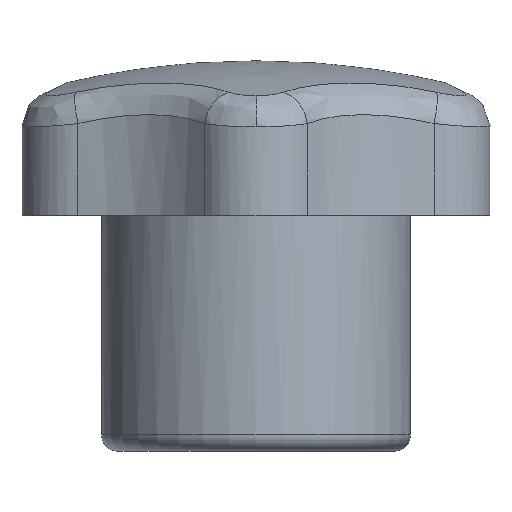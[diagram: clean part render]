
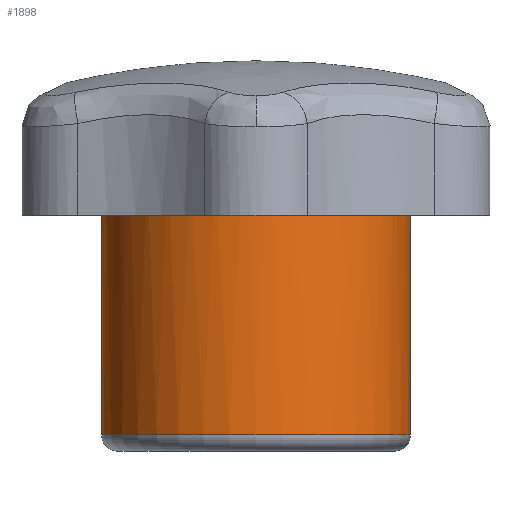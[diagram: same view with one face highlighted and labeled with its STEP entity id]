
A CAD part, left-side view. The second image highlights one B-rep face of the part: STEP entity #1898.
In plain terms, the highlighted cylindrical face has radius 9.5 mm (diameter 19 mm), a full revolution.
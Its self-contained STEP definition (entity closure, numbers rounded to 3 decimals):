
#42=CARTESIAN_POINT('',(-9.5,0.,1.));
#43=VERTEX_POINT('',#42);
#53=CARTESIAN_POINT('',(0.,0.,1.));
#54=DIRECTION('',(-1.,0.,0.));
#55=DIRECTION('',(0.,0.,1.));
#56=AXIS2_PLACEMENT_3D('',#53,#55,#54);
#57=CIRCLE('',#56,9.5);
#58=EDGE_CURVE('',#43,#43,#57,.T.);
#1670=CARTESIAN_POINT('',(0.,0.,17.5));
#1671=DIRECTION('',(-1.,0.,0.));
#1672=DIRECTION('',(0.,0.,-1.));
#1673=AXIS2_PLACEMENT_3D('',#1670,#1672,#1671);
#1674=CYLINDRICAL_SURFACE('',#1673,9.5);
#1675=ORIENTED_EDGE('',*,*,#58,.T.);
#1676=CARTESIAN_POINT('',(-9.5,0.,16.5));
#1677=VERTEX_POINT('',#1676);
#1678=CARTESIAN_POINT('',(-9.5,0.,1.));
#1679=DIRECTION('',(0.,0.,1.));
#1680=VECTOR('',#1679,15.5);
#1681=LINE('',#1678,#1680);
#1682=EDGE_CURVE('',#43,#1677,#1681,.T.);
#1683=ORIENTED_EDGE('E55',*,*,#1682,.T.);
#1684=CARTESIAN_POINT('',(-9.457,0.9,16.5));
#1685=VERTEX_POINT('',#1684);
#1686=CARTESIAN_POINT('',(0.,0.,16.5));
#1687=DIRECTION('',(-0.996,0.095,0.));
#1688=DIRECTION('',(0.,0.,1.));
#1689=AXIS2_PLACEMENT_3D('',#1686,#1688,#1687);
#1690=CIRCLE('',#1689,9.5);
#1691=EDGE_CURVE('',#1685,#1677,#1690,.T.);
#1692=ORIENTED_EDGE('E233',*,*,#1691,.F.);
#1693=CARTESIAN_POINT('',(-9.457,0.9,17.5));
#1694=VERTEX_POINT('',#1693);
#1695=CARTESIAN_POINT('',(-9.457,0.9,17.5));
#1696=DIRECTION('',(0.,0.,-1.));
#1697=VECTOR('',#1696,1.);
#1698=LINE('',#1695,#1697);
#1699=EDGE_CURVE('',#1694,#1685,#1698,.T.);
#1700=ORIENTED_EDGE('E234',*,*,#1699,.F.);
#1701=CARTESIAN_POINT('',(-5.508,7.74,17.5));
#1702=VERTEX_POINT('',#1701);
#1703=CARTESIAN_POINT('',(0.,0.,17.5));
#1704=DIRECTION('',(-0.58,0.815,0.));
#1705=DIRECTION('',(0.,0.,1.));
#1706=AXIS2_PLACEMENT_3D('',#1703,#1705,#1704);
#1707=CIRCLE('',#1706,9.5);
#1708=EDGE_CURVE('',#1702,#1694,#1707,.T.);
#1709=ORIENTED_EDGE('E132',*,*,#1708,.F.);
#1710=CARTESIAN_POINT('',(-5.508,7.74,16.5));
#1711=VERTEX_POINT('',#1710);
#1712=CARTESIAN_POINT('',(-5.508,7.74,16.5));
#1713=DIRECTION('',(0.,0.,1.));
#1714=VECTOR('',#1713,1.);
#1715=LINE('',#1712,#1714);
#1716=EDGE_CURVE('',#1711,#1702,#1715,.T.);
#1717=ORIENTED_EDGE('E216',*,*,#1716,.F.);
#1718=CARTESIAN_POINT('',(-3.949,8.64,16.5));
#1719=VERTEX_POINT('',#1718);
#1720=CARTESIAN_POINT('',(0.,0.,16.5));
#1721=DIRECTION('',(-0.416,0.909,0.));
#1722=DIRECTION('',(0.,0.,1.));
#1723=AXIS2_PLACEMENT_3D('',#1720,#1722,#1721);
#1724=CIRCLE('',#1723,9.5);
#1725=EDGE_CURVE('',#1719,#1711,#1724,.T.);
#1726=ORIENTED_EDGE('E215',*,*,#1725,.F.);
#1727=CARTESIAN_POINT('',(-3.949,8.64,17.5));
#1728=VERTEX_POINT('',#1727);
#1729=CARTESIAN_POINT('',(-3.949,8.64,17.5));
#1730=DIRECTION('',(0.,0.,-1.));
#1731=VECTOR('',#1730,1.);
#1732=LINE('',#1729,#1731);
#1733=EDGE_CURVE('',#1728,#1719,#1732,.T.);
#1734=ORIENTED_EDGE('E214',*,*,#1733,.F.);
#1735=CARTESIAN_POINT('',(3.949,8.64,17.5));
#1736=VERTEX_POINT('',#1735);
#1737=CARTESIAN_POINT('',(0.,0.,17.5));
#1738=DIRECTION('',(0.416,0.909,0.));
#1739=DIRECTION('',(0.,0.,1.));
#1740=AXIS2_PLACEMENT_3D('',#1737,#1739,#1738);
#1741=CIRCLE('',#1740,9.5);
#1742=EDGE_CURVE('',#1736,#1728,#1741,.T.);
#1743=ORIENTED_EDGE('E166',*,*,#1742,.F.);
#1744=CARTESIAN_POINT('',(3.949,8.64,16.5));
#1745=VERTEX_POINT('',#1744);
#1746=CARTESIAN_POINT('',(3.949,8.64,16.5));
#1747=DIRECTION('',(0.,0.,1.));
#1748=VECTOR('',#1747,1.);
#1749=LINE('',#1746,#1748);
#1750=EDGE_CURVE('',#1745,#1736,#1749,.T.);
#1751=ORIENTED_EDGE('E186',*,*,#1750,.F.);
#1752=CARTESIAN_POINT('',(5.508,7.74,16.5));
#1753=VERTEX_POINT('',#1752);
#1754=CARTESIAN_POINT('',(0.,0.,16.5));
#1755=DIRECTION('',(0.58,0.815,0.));
#1756=DIRECTION('',(0.,0.,1.));
#1757=AXIS2_PLACEMENT_3D('',#1754,#1756,#1755);
#1758=CIRCLE('',#1757,9.5);
#1759=EDGE_CURVE('',#1753,#1745,#1758,.T.);
#1760=ORIENTED_EDGE('E180',*,*,#1759,.F.);
#1761=CARTESIAN_POINT('',(5.508,7.74,17.5));
#1762=VERTEX_POINT('',#1761);
#1763=CARTESIAN_POINT('',(5.508,7.74,17.5));
#1764=DIRECTION('',(0.,0.,-1.));
#1765=VECTOR('',#1764,1.);
#1766=LINE('',#1763,#1765);
#1767=EDGE_CURVE('',#1762,#1753,#1766,.T.);
#1768=ORIENTED_EDGE('E181',*,*,#1767,.F.);
#1769=CARTESIAN_POINT('',(9.457,0.9,17.5));
#1770=VERTEX_POINT('',#1769);
#1771=CARTESIAN_POINT('',(0.,0.,17.5));
#1772=DIRECTION('',(0.996,0.095,0.));
#1773=DIRECTION('',(0.,0.,1.));
#1774=AXIS2_PLACEMENT_3D('',#1771,#1773,#1772);
#1775=CIRCLE('',#1774,9.5);
#1776=EDGE_CURVE('',#1770,#1762,#1775,.T.);
#1777=ORIENTED_EDGE('E169',*,*,#1776,.F.);
#1778=CARTESIAN_POINT('',(9.457,0.9,16.5));
#1779=VERTEX_POINT('',#1778);
#1780=CARTESIAN_POINT('',(9.457,0.9,16.5));
#1781=DIRECTION('',(0.,0.,1.));
#1782=VECTOR('',#1781,1.);
#1783=LINE('',#1780,#1782);
#1784=EDGE_CURVE('',#1779,#1770,#1783,.T.);
#1785=ORIENTED_EDGE('E224',*,*,#1784,.F.);
#1786=CARTESIAN_POINT('',(9.457,-0.9,16.5));
#1787=VERTEX_POINT('',#1786);
#1788=CARTESIAN_POINT('',(0.,0.,16.5));
#1789=DIRECTION('',(0.996,-0.095,0.));
#1790=DIRECTION('',(0.,0.,1.));
#1791=AXIS2_PLACEMENT_3D('',#1788,#1790,#1789);
#1792=CIRCLE('',#1791,9.5);
#1793=EDGE_CURVE('',#1787,#1779,#1792,.T.);
#1794=ORIENTED_EDGE('E220',*,*,#1793,.F.);
#1795=CARTESIAN_POINT('',(9.457,-0.9,17.5));
#1796=VERTEX_POINT('',#1795);
#1797=CARTESIAN_POINT('',(9.457,-0.9,17.5));
#1798=DIRECTION('',(0.,0.,-1.));
#1799=VECTOR('',#1798,1.);
#1800=LINE('',#1797,#1799);
#1801=EDGE_CURVE('',#1796,#1787,#1800,.T.);
#1802=ORIENTED_EDGE('E223',*,*,#1801,.F.);
#1803=CARTESIAN_POINT('',(5.508,-7.74,17.5));
#1804=VERTEX_POINT('',#1803);
#1805=CARTESIAN_POINT('',(0.,0.,17.5));
#1806=DIRECTION('',(0.58,-0.815,0.));
#1807=DIRECTION('',(0.,-0.,1.));
#1808=AXIS2_PLACEMENT_3D('',#1805,#1807,#1806);
#1809=CIRCLE('',#1808,9.5);
#1810=EDGE_CURVE('',#1804,#1796,#1809,.T.);
#1811=ORIENTED_EDGE('E167',*,*,#1810,.F.);
#1812=CARTESIAN_POINT('',(5.508,-7.74,16.5));
#1813=VERTEX_POINT('',#1812);
#1814=CARTESIAN_POINT('',(5.508,-7.74,16.5));
#1815=DIRECTION('',(0.,0.,1.));
#1816=VECTOR('',#1815,1.);
#1817=LINE('',#1814,#1816);
#1818=EDGE_CURVE('',#1813,#1804,#1817,.T.);
#1819=ORIENTED_EDGE('E192',*,*,#1818,.F.);
#1820=CARTESIAN_POINT('',(3.949,-8.64,16.5));
#1821=VERTEX_POINT('',#1820);
#1822=CARTESIAN_POINT('',(0.,0.,16.5));
#1823=DIRECTION('',(0.416,-0.909,0.));
#1824=DIRECTION('',(0.,0.,1.));
#1825=AXIS2_PLACEMENT_3D('',#1822,#1824,#1823);
#1826=CIRCLE('',#1825,9.5);
#1827=EDGE_CURVE('',#1821,#1813,#1826,.T.);
#1828=ORIENTED_EDGE('E196',*,*,#1827,.F.);
#1829=CARTESIAN_POINT('',(3.949,-8.64,17.5));
#1830=VERTEX_POINT('',#1829);
#1831=CARTESIAN_POINT('',(3.949,-8.64,17.5));
#1832=DIRECTION('',(0.,0.,-1.));
#1833=VECTOR('',#1832,1.);
#1834=LINE('',#1831,#1833);
#1835=EDGE_CURVE('',#1830,#1821,#1834,.T.);
#1836=ORIENTED_EDGE('E195',*,*,#1835,.F.);
#1837=CARTESIAN_POINT('',(-3.949,-8.64,17.5));
#1838=VERTEX_POINT('',#1837);
#1839=CARTESIAN_POINT('',(0.,0.,17.5));
#1840=DIRECTION('',(-0.416,-0.909,0.));
#1841=DIRECTION('',(-0.,0.,1.));
#1842=AXIS2_PLACEMENT_3D('',#1839,#1841,#1840);
#1843=CIRCLE('',#1842,9.5);
#1844=EDGE_CURVE('',#1838,#1830,#1843,.T.);
#1845=ORIENTED_EDGE('E168',*,*,#1844,.F.);
#1846=CARTESIAN_POINT('',(-3.949,-8.64,16.5));
#1847=VERTEX_POINT('',#1846);
#1848=CARTESIAN_POINT('',(-3.949,-8.64,16.5));
#1849=DIRECTION('',(0.,0.,1.));
#1850=VECTOR('',#1849,1.);
#1851=LINE('',#1848,#1850);
#1852=EDGE_CURVE('',#1847,#1838,#1851,.T.);
#1853=ORIENTED_EDGE('E200',*,*,#1852,.F.);
#1854=CARTESIAN_POINT('',(-5.508,-7.74,16.5));
#1855=VERTEX_POINT('',#1854);
#1856=CARTESIAN_POINT('',(0.,0.,16.5));
#1857=DIRECTION('',(-0.58,-0.815,0.));
#1858=DIRECTION('',(0.,0.,1.));
#1859=AXIS2_PLACEMENT_3D('',#1856,#1858,#1857);
#1860=CIRCLE('',#1859,9.5);
#1861=EDGE_CURVE('',#1855,#1847,#1860,.T.);
#1862=ORIENTED_EDGE('E203',*,*,#1861,.F.);
#1863=CARTESIAN_POINT('',(-5.508,-7.74,17.5));
#1864=VERTEX_POINT('',#1863);
#1865=CARTESIAN_POINT('',(-5.508,-7.74,17.5));
#1866=DIRECTION('',(0.,0.,-1.));
#1867=VECTOR('',#1866,1.);
#1868=LINE('',#1865,#1867);
#1869=EDGE_CURVE('',#1864,#1855,#1868,.T.);
#1870=ORIENTED_EDGE('E206',*,*,#1869,.F.);
#1871=CARTESIAN_POINT('',(-9.457,-0.9,17.5));
#1872=VERTEX_POINT('',#1871);
#1873=CARTESIAN_POINT('',(0.,0.,17.5));
#1874=DIRECTION('',(-0.996,-0.095,0.));
#1875=DIRECTION('',(-0.,0.,1.));
#1876=AXIS2_PLACEMENT_3D('',#1873,#1875,#1874);
#1877=CIRCLE('',#1876,9.5);
#1878=EDGE_CURVE('',#1872,#1864,#1877,.T.);
#1879=ORIENTED_EDGE('E170',*,*,#1878,.F.);
#1880=CARTESIAN_POINT('',(-9.457,-0.9,16.5));
#1881=VERTEX_POINT('',#1880);
#1882=CARTESIAN_POINT('',(-9.457,-0.9,16.5));
#1883=DIRECTION('',(0.,0.,1.));
#1884=VECTOR('',#1883,1.);
#1885=LINE('',#1882,#1884);
#1886=EDGE_CURVE('',#1881,#1872,#1885,.T.);
#1887=ORIENTED_EDGE('E231',*,*,#1886,.F.);
#1888=CARTESIAN_POINT('',(0.,0.,16.5));
#1889=DIRECTION('',(-1.,0.,0.));
#1890=DIRECTION('',(0.,0.,1.));
#1891=AXIS2_PLACEMENT_3D('',#1888,#1890,#1889);
#1892=CIRCLE('',#1891,9.5);
#1893=EDGE_CURVE('',#1677,#1881,#1892,.T.);
#1894=ORIENTED_EDGE('E232',*,*,#1893,.F.);
#1895=ORIENTED_EDGE('E232',*,*,#1682,.F.);
#1896=EDGE_LOOP('',(#1675,#1683,#1692,#1700,#1709,#1717,#1726,#1734,#1743,#1751,#1760,#1768,#1777,#1785,#1794,#1802,#1811,#1819,#1828,#1836,#1845,#1853,#1862,#1870,#1879,#1887,#1894,#1895));
#1897=FACE_OUTER_BOUND('',#1896,.T.);
#1898=ADVANCED_FACE('F50',(#1897),#1674,.T.);
